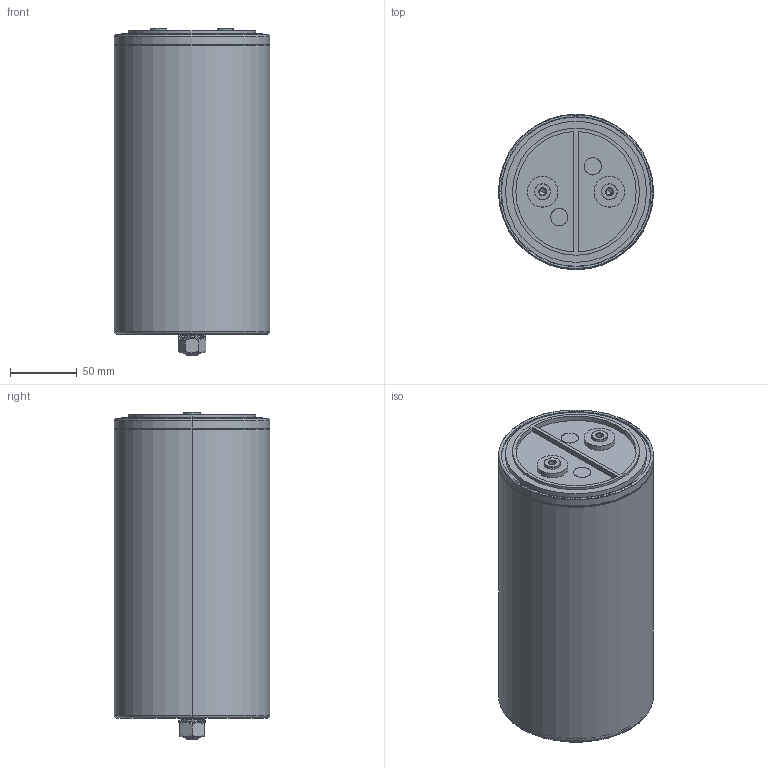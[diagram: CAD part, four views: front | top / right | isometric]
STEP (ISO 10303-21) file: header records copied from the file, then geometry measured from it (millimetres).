
FILE_DESCRIPTION (( 'STEP AP203' ), '1' );
FILE_NAME ('B25620Bx_116x223_229.STEP', '2021-07-01T05:25:49', ( '' ), ( '' ), 'SwSTEP 2.0', 'SolidWorks 2017', '' );
FILE_SCHEMA (( 'CONFIG_CONTROL_DESIGN' ));
Length unit declared in the file: millimetre
Products named in the file (1): B25620Bx_116x223_229
Bounding box: 116 x 116 x 245 mm (x, y, z)
Volume: 137785.5 mm3; surface area: 214568.8 mm2
Topology: 2 solids, 15 shells, 283 faces, 620 edges, 392 vertices
Faces by surface type: plane 113, cylinder 80, bspline 50, cone 22, torus 18
Entity records: 8809 total; most frequent: CARTESIAN_POINT 2696, ORIENTED_EDGE 1232, DIRECTION 1210, EDGE_CURVE 616, AXIS2_PLACEMENT_3D 456, VERTEX_POINT 392, EDGE_LOOP 314, LINE 298
